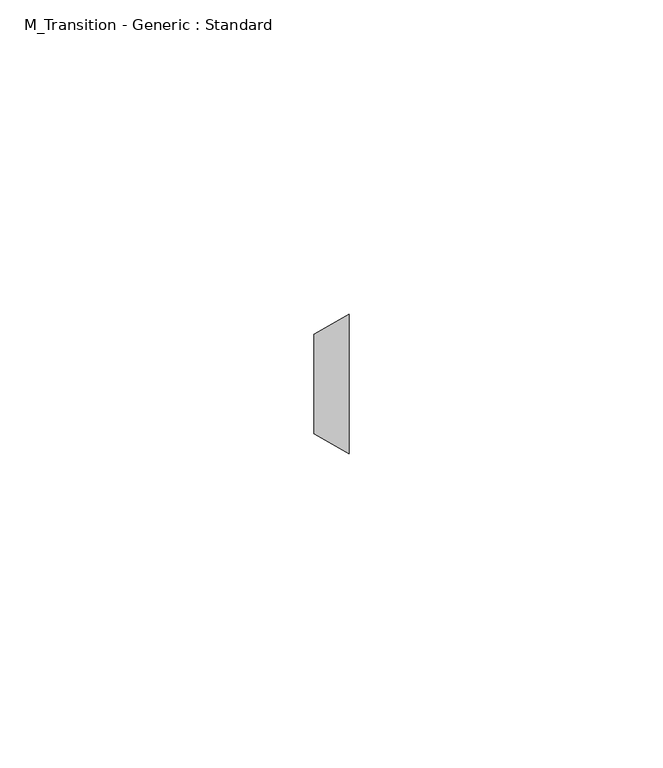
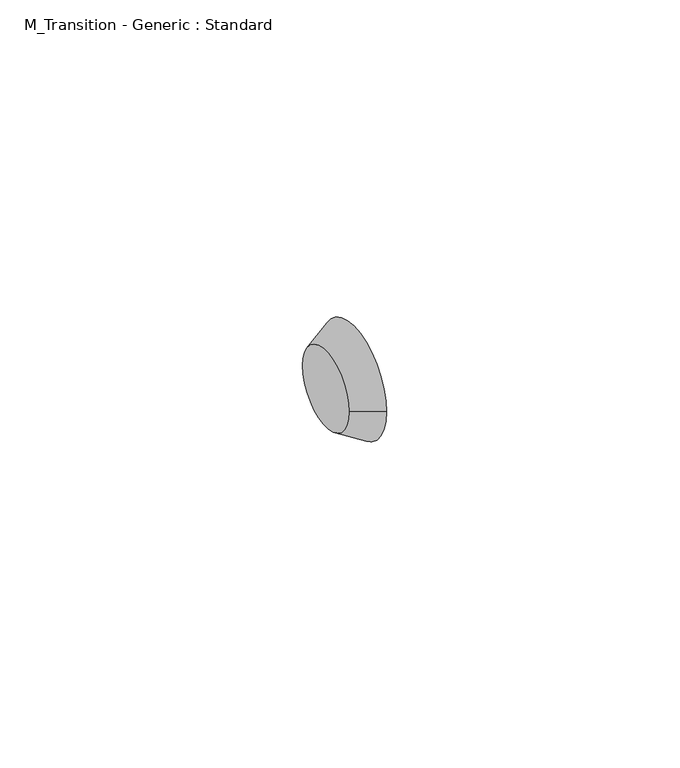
"""IFC4 building model written with IfcOpenShell, lengths in millimetres: pipe fitting geometry, M_Transition - Generic : Standard."""

from ifc_helpers import new_model, si_unit, frame, origin, place, context, project, spatial, polyline, circle_curve, source, transform, mapped, element, save
from ifc_brep_helpers import plane_surface, revolved_surface, advanced_brep


def m_transition_generic_standard_0bb1ffaf(model_context):
    return source(origin(), model_context, "Body", "AdvancedBrep", [
        advanced_brep(
        [(5.55625, -11.1125, 0.0), (5.55625, 11.1125, 0.0), (0.0, -7.9375, 0.0), (0.0, 7.9375, 0.0)],
        [
            (0, 1, circle_curve(frame((5.55625, 0.0, 0.0), z_axis=(1.0, 0.0, 0.0), x_axis=(0.0, -1.0, 0.0)), 11.1125)),
            (1, 0, circle_curve(frame((5.55625, 0.0, 0.0), z_axis=(1.0, 0.0, 0.0), x_axis=(0.0, 1.0, 0.0)), 11.1125)),
            (2, 3, circle_curve(frame((0.0, 0.0, 0.0), z_axis=(-1.0, 0.0, 0.0), x_axis=(0.0, 1.0, 0.0)), 7.9375)),
            (3, 2, circle_curve(frame((0.0, 0.0, 0.0), z_axis=(-1.0, 0.0, 0.0), x_axis=(0.0, -1.0, 0.0)), 7.9375)),
            (3, 1),
            (0, 2),
        ],
        [
            plane_surface(frame((5.55625, 0.0, 0.0), z_axis=(1.0, 0.0, 0.0), x_axis=(0.0, 0.0, -1.0))),
            plane_surface(frame((0.0, 0.0, 0.0), z_axis=(-1.0, 0.0, 0.0), x_axis=(0.0, 0.0, -1.0))),
            revolved_surface(polyline([(0.0, 7.937500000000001, 0.0), (5.556249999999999, 11.1125, 0.0)]), (-13.890625, 0.0, 0.0), (1.0, 0.0, 0.0)),
            revolved_surface(polyline([(0.0, -7.937500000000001, 0.0), (5.556249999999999, -11.1125, 0.0)]), (-13.890625, 0.0, 0.0), (1.0, 0.0, 0.0)),
        ],
        [
            (0, [[1, 2]]),
            (1, [[3, 4]]),
            (2, [[-4, 5, -1, 6]]),
            (3, [[-3, -6, -2, -5]]),
        ],
    ),
    ])


if __name__ == "__main__":
    model = new_model("IFC4")
    model_context = context("Model", 3, world=origin())
    ifc_project = project(units=[si_unit("LENGTHUNIT", "METRE", prefix="MILLI")], contexts=[model_context])
    site = spatial("IfcSite", under=ifc_project)
    building = spatial("IfcBuilding", under=site)
    placement = place(None, origin())
    m_transition_generic_standard_shape = m_transition_generic_standard_0bb1ffaf(model_context)
    element("IfcPipeFitting", 1, ObjectType="M_Transition - Generic : Standard", at=placement, inside=building, context=model_context, shape_type="MappedRepresentation", body=[
        mapped(m_transition_generic_standard_shape, transform((0.0, 0.0, 0.0), x_axis=(1.0, 0.0, 0.0), y_axis=(0.0, 1.0, 0.0), z_axis=(0.0, 0.0, 1.0))),
    ])
    save(model, "model.ifc")
